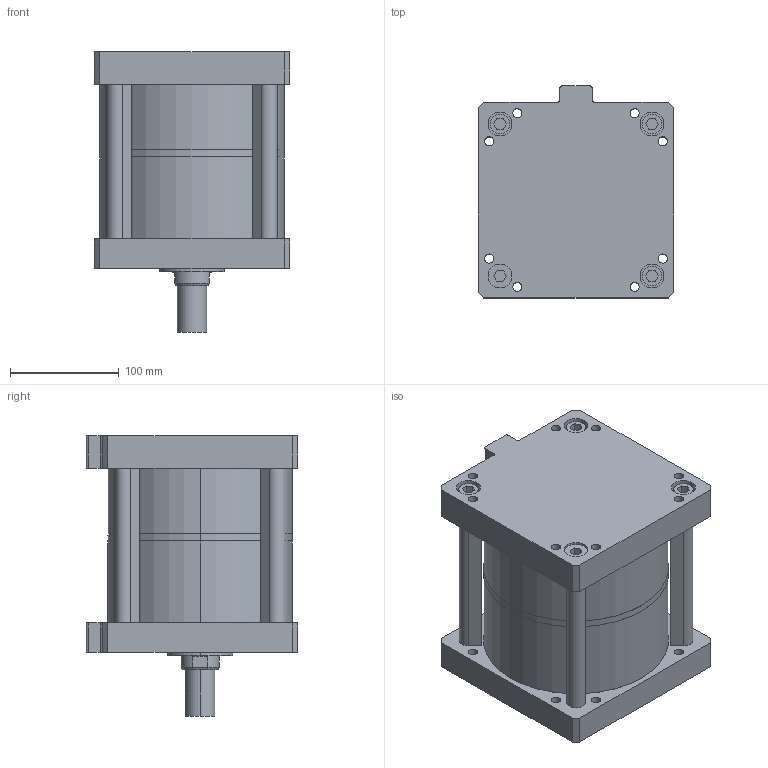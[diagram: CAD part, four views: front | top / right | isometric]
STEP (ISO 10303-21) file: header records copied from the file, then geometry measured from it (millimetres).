
FILE_DESCRIPTION (( 'STEP AP203' ), '1' );
FILE_NAME ('MHK-160-50-E-2.STEP', '2016-03-30T09:34:37', ( 'WIN' ), ( '' ), 'SwSTEP 2.0', 'SolidWorks 2014', '' );
FILE_SCHEMA (( 'CONFIG_CONTROL_DESIGN' ));
Length unit declared in the file: millimetre
Products named in the file (1): MHK-160-50-E-2
Bounding box: 180 x 195 x 258.5 mm (x, y, z)
Volume: 2376700.5 mm3; surface area: 512897.7 mm2
Topology: 4 solids, 4 shells, 304 faces, 732 edges, 470 vertices
Faces by surface type: plane 174, cylinder 120, cone 10
Entity records: 9015 total; most frequent: DIRECTION 1630, CARTESIAN_POINT 1515, ORIENTED_EDGE 1456, EDGE_CURVE 728, AXIS2_PLACEMENT_3D 601, VERTEX_POINT 470, VECTOR 428, LINE 428
